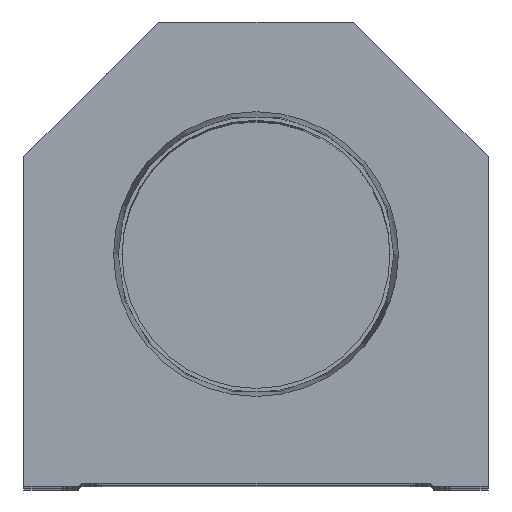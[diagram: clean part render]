
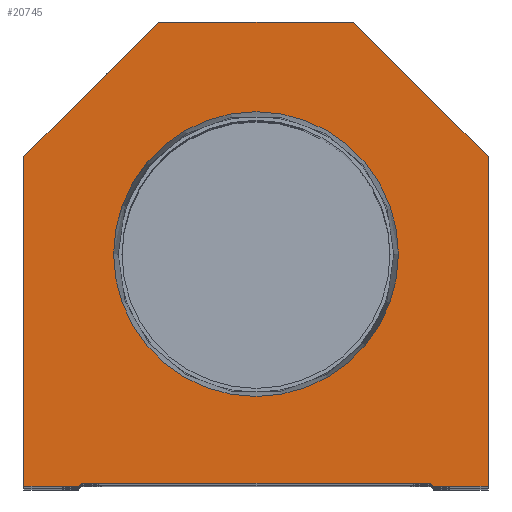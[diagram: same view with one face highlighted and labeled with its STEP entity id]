
A CAD part, top view. The second image highlights one B-rep face of the part: STEP entity #20745.
In plain terms, the highlighted planar face has unit normal (0, 0, 1).
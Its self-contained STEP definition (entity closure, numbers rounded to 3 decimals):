
#60 = DIRECTION ( 'NONE',  ( 0., 1., 0. ) ) ;
#755 = CARTESIAN_POINT ( 'NONE',  ( 29.1, 0., 0. ) ) ;
#958 = DIRECTION ( 'NONE',  ( 0.707, -0.707, 0. ) ) ;
#1415 = EDGE_CURVE ( 'NONE', #14418, #23682, #9597, .T. ) ;
#1806 = VECTOR ( 'NONE', #60, 1000. ) ;
#1835 = CARTESIAN_POINT ( 'NONE',  ( 0., 38.1, 0. ) ) ;
#2043 = DIRECTION ( 'NONE',  ( 1., 0., 0. ) ) ;
#2683 = VECTOR ( 'NONE', #2043, 1000. ) ;
#2813 = ORIENTED_EDGE ( 'NONE', *, *, #16544, .T. ) ;
#2917 = DIRECTION ( 'NONE',  ( 1., 0., 0. ) ) ;
#3001 = DIRECTION ( 'NONE',  ( 0., 0., 1. ) ) ;
#3224 = CARTESIAN_POINT ( 'NONE',  ( -28.6, 0.5, 0. ) ) ;
#3856 = VECTOR ( 'NONE', #20187, 1000. ) ;
#3908 = EDGE_CURVE ( 'NONE', #8054, #5387, #10344, .T. ) ;
#4303 = CARTESIAN_POINT ( 'NONE',  ( -16., 76.2, 0. ) ) ;
#4409 = ORIENTED_EDGE ( 'NONE', *, *, #13445, .T. ) ;
#4613 = DIRECTION ( 'NONE',  ( 0., 0., 1. ) ) ;
#4905 = DIRECTION ( 'NONE',  ( 1., 0., 0. ) ) ;
#4919 = DIRECTION ( 'NONE',  ( 1., 0., 0. ) ) ;
#5226 = VECTOR ( 'NONE', #20155, 1000. ) ;
#5317 = LINE ( 'NONE', #11164, #3856 ) ;
#5358 = EDGE_CURVE ( 'NONE', #5938, #14728, #23890, .T. ) ;
#5387 = VERTEX_POINT ( 'NONE', #16658 ) ;
#5468 = EDGE_CURVE ( 'NONE', #14778, #17409, #19818, .T. ) ;
#5539 = LINE ( 'NONE', #15068, #2683 ) ;
#5794 = ORIENTED_EDGE ( 'NONE', *, *, #17498, .T. ) ;
#5833 = CARTESIAN_POINT ( 'NONE',  ( 23.374, 38.1, 0. ) ) ;
#5880 = CARTESIAN_POINT ( 'NONE',  ( 28.6, 0., 0. ) ) ;
#5938 = VERTEX_POINT ( 'NONE', #23639 ) ;
#6958 = LINE ( 'NONE', #21816, #1806 ) ;
#7151 = VECTOR ( 'NONE', #22712, 1000. ) ;
#7653 = EDGE_CURVE ( 'NONE', #13137, #10592, #23205, .T. ) ;
#7893 = EDGE_CURVE ( 'NONE', #23682, #13137, #16369, .T. ) ;
#8054 = VERTEX_POINT ( 'NONE', #22113 ) ;
#8118 = VERTEX_POINT ( 'NONE', #19940 ) ;
#8171 = CARTESIAN_POINT ( 'NONE',  ( 28.6, 0.5, 0. ) ) ;
#8281 = VECTOR ( 'NONE', #10760, 1000. ) ;
#8614 = DIRECTION ( 'NONE',  ( -1., 0., 0. ) ) ;
#8799 = ORIENTED_EDGE ( 'NONE', *, *, #14261, .T. ) ;
#8936 = CARTESIAN_POINT ( 'NONE',  ( 0., 0., 0. ) ) ;
#9111 = DIRECTION ( 'NONE',  ( 1., 0., 0. ) ) ;
#9597 = LINE ( 'NONE', #19464, #7151 ) ;
#10344 = LINE ( 'NONE', #16069, #5226 ) ;
#10592 = VERTEX_POINT ( 'NONE', #755 ) ;
#10760 = DIRECTION ( 'NONE',  ( 1., 0., 0. ) ) ;
#10928 = EDGE_CURVE ( 'NONE', #14728, #5938, #16548, .T. ) ;
#11164 = CARTESIAN_POINT ( 'NONE',  ( -38.1, 54.1, 0. ) ) ;
#11252 = AXIS2_PLACEMENT_3D ( 'NONE', #8936, #3001, #4919 ) ;
#11265 = VECTOR ( 'NONE', #15214, 1000. ) ;
#12040 = CARTESIAN_POINT ( 'NONE',  ( 38.1, 54.1, 0. ) ) ;
#12261 = FACE_OUTER_BOUND ( 'NONE', #21810, .T. ) ;
#12587 = VECTOR ( 'NONE', #958, 1000. ) ;
#13137 = VERTEX_POINT ( 'NONE', #8171 ) ;
#13445 = EDGE_CURVE ( 'NONE', #17409, #8054, #5317, .T. ) ;
#14261 = EDGE_CURVE ( 'NONE', #14450, #14778, #24044, .T. ) ;
#14306 = VECTOR ( 'NONE', #4905, 1000. ) ;
#14418 = VERTEX_POINT ( 'NONE', #17601 ) ;
#14450 = VERTEX_POINT ( 'NONE', #12040 ) ;
#14728 = VERTEX_POINT ( 'NONE', #5833 ) ;
#14778 = VERTEX_POINT ( 'NONE', #17034 ) ;
#14938 = CARTESIAN_POINT ( 'NONE',  ( -28.6, 0.5, 0. ) ) ;
#14969 = ORIENTED_EDGE ( 'NONE', *, *, #10928, .F. ) ;
#15068 = CARTESIAN_POINT ( 'NONE',  ( -28.6, 0., 0. ) ) ;
#15214 = DIRECTION ( 'NONE',  ( -0.707, 0.707, 0. ) ) ;
#15879 = EDGE_LOOP ( 'NONE', ( #14969, #19165 ) ) ;
#16069 = CARTESIAN_POINT ( 'NONE',  ( -38.1, 0., 0. ) ) ;
#16369 = LINE ( 'NONE', #3224, #8281 ) ;
#16537 = AXIS2_PLACEMENT_3D ( 'NONE', #1835, #20432, #9111 ) ;
#16544 = EDGE_CURVE ( 'NONE', #8118, #14450, #6958, .T. ) ;
#16548 = CIRCLE ( 'NONE', #18077, 23.374 ) ;
#16658 = CARTESIAN_POINT ( 'NONE',  ( -38.1, 0., 0. ) ) ;
#16929 = ORIENTED_EDGE ( 'NONE', *, *, #5468, .T. ) ;
#17023 = ORIENTED_EDGE ( 'NONE', *, *, #7653, .T. ) ;
#17034 = CARTESIAN_POINT ( 'NONE',  ( 16., 76.2, 0. ) ) ;
#17409 = VERTEX_POINT ( 'NONE', #4303 ) ;
#17498 = EDGE_CURVE ( 'NONE', #10592, #8118, #22533, .T. ) ;
#17601 = CARTESIAN_POINT ( 'NONE',  ( -29.1, 0., 0. ) ) ;
#17673 = ORIENTED_EDGE ( 'NONE', *, *, #20020, .T. ) ;
#17697 = FACE_BOUND ( 'NONE', #15879, .T. ) ;
#17741 = CARTESIAN_POINT ( 'NONE',  ( 0., 38.1, 0. ) ) ;
#18077 = AXIS2_PLACEMENT_3D ( 'NONE', #17741, #4613, #2917 ) ;
#19165 = ORIENTED_EDGE ( 'NONE', *, *, #5358, .F. ) ;
#19287 = ORIENTED_EDGE ( 'NONE', *, *, #1415, .T. ) ;
#19464 = CARTESIAN_POINT ( 'NONE',  ( -14.55, 14.55, 0. ) ) ;
#19667 = PLANE ( 'NONE',  #11252 ) ;
#19697 = CARTESIAN_POINT ( 'NONE',  ( 16., 76.2, 0. ) ) ;
#19818 = LINE ( 'NONE', #19697, #20835 ) ;
#19940 = CARTESIAN_POINT ( 'NONE',  ( 38.1, 0., 0. ) ) ;
#20020 = EDGE_CURVE ( 'NONE', #5387, #14418, #5539, .T. ) ;
#20155 = DIRECTION ( 'NONE',  ( 0., -1., 0. ) ) ;
#20187 = DIRECTION ( 'NONE',  ( -0.707, -0.707, 0. ) ) ;
#20302 = CARTESIAN_POINT ( 'NONE',  ( 38.1, 54.1, 0. ) ) ;
#20432 = DIRECTION ( 'NONE',  ( 0., 0., 1. ) ) ;
#20745 = ADVANCED_FACE ( 'NONE', ( #17697, #12261 ), #19667, .T. ) ;
#20835 = VECTOR ( 'NONE', #8614, 1000. ) ;
#21038 = CARTESIAN_POINT ( 'NONE',  ( 14.55, 14.55, 0. ) ) ;
#21810 = EDGE_LOOP ( 'NONE', ( #17673, #19287, #24002, #17023, #5794, #2813, #8799, #16929, #4409, #23792 ) ) ;
#21816 = CARTESIAN_POINT ( 'NONE',  ( 38.1, 0., 0. ) ) ;
#22113 = CARTESIAN_POINT ( 'NONE',  ( -38.1, 54.1, 0. ) ) ;
#22533 = LINE ( 'NONE', #5880, #14306 ) ;
#22712 = DIRECTION ( 'NONE',  ( 0.707, 0.707, 0. ) ) ;
#23205 = LINE ( 'NONE', #21038, #12587 ) ;
#23639 = CARTESIAN_POINT ( 'NONE',  ( -23.374, 38.1, 0. ) ) ;
#23682 = VERTEX_POINT ( 'NONE', #14938 ) ;
#23792 = ORIENTED_EDGE ( 'NONE', *, *, #3908, .T. ) ;
#23890 = CIRCLE ( 'NONE', #16537, 23.374 ) ;
#24002 = ORIENTED_EDGE ( 'NONE', *, *, #7893, .T. ) ;
#24044 = LINE ( 'NONE', #20302, #11265 ) ;
